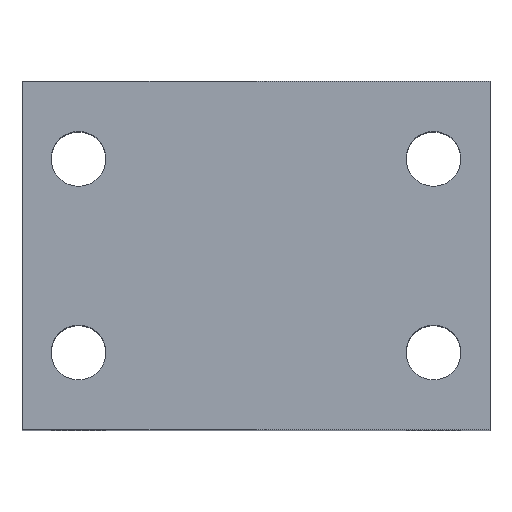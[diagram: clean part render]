
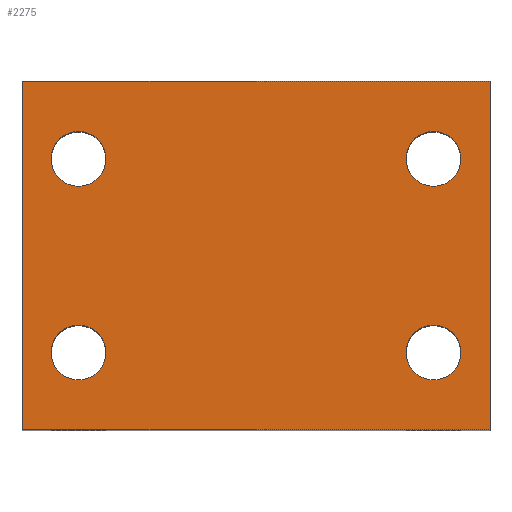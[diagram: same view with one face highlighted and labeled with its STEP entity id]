
A CAD part, top view. The second image highlights one B-rep face of the part: STEP entity #2275.
In plain terms, the highlighted planar face has unit normal (0, 0, 1).
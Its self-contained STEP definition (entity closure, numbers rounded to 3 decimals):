
#125 = DIRECTION ( 'NONE',  ( 0., 0., -1. ) ) ;
#334 = DIRECTION ( 'NONE',  ( 0., 0., -1. ) ) ;
#747 = VERTEX_POINT ( 'NONE', #1971 ) ;
#856 = CARTESIAN_POINT ( 'NONE',  ( 55., 84., 50. ) ) ;
#932 = EDGE_CURVE ( 'NONE', #12516, #10731, #10972, .T. ) ;
#978 = FACE_BOUND ( 'NONE', #5237, .T. ) ;
#1171 = ORIENTED_EDGE ( 'NONE', *, *, #15172, .T. ) ;
#1533 = LINE ( 'NONE', #4700, #1932 ) ;
#1811 = VERTEX_POINT ( 'NONE', #5464 ) ;
#1932 = VECTOR ( 'NONE', #9622, 1000. ) ;
#1971 = CARTESIAN_POINT ( 'NONE',  ( -46.5, 84., 50. ) ) ;
#2048 = EDGE_CURVE ( 'NONE', #10731, #12516, #9281, .T. ) ;
#2101 = CIRCLE ( 'NONE', #14563, 8.5 ) ;
#2110 = VERTEX_POINT ( 'NONE', #10486 ) ;
#2268 = AXIS2_PLACEMENT_3D ( 'NONE', #12563, #4609, #13880 ) ;
#2275 = ADVANCED_FACE ( 'NONE', ( #978, #8066, #14699, #11147, #15098 ), #16583, .F. ) ;
#2442 = DIRECTION ( 'NONE',  ( 0., 0., -1. ) ) ;
#2688 = VERTEX_POINT ( 'NONE', #8898 ) ;
#2801 = ORIENTED_EDGE ( 'NONE', *, *, #6924, .T. ) ;
#3008 = CARTESIAN_POINT ( 'NONE',  ( -55., 84., 50. ) ) ;
#3162 = EDGE_LOOP ( 'NONE', ( #7944, #12079 ) ) ;
#3174 = EDGE_CURVE ( 'NONE', #16484, #5057, #4512, .T. ) ;
#3197 = ORIENTED_EDGE ( 'NONE', *, *, #14361, .T. ) ;
#3611 = EDGE_LOOP ( 'NONE', ( #3711, #9739 ) ) ;
#3690 = AXIS2_PLACEMENT_3D ( 'NONE', #8336, #334, #9656 ) ;
#3711 = ORIENTED_EDGE ( 'NONE', *, *, #2048, .T. ) ;
#4063 = CARTESIAN_POINT ( 'NONE',  ( 72.5, 108., 50. ) ) ;
#4130 = AXIS2_PLACEMENT_3D ( 'NONE', #10214, #15735, #13304 ) ;
#4293 = EDGE_CURVE ( 'NONE', #9563, #5057, #5949, .T. ) ;
#4335 = DIRECTION ( 'NONE',  ( -1., 0., 0. ) ) ;
#4408 = VERTEX_POINT ( 'NONE', #12085 ) ;
#4512 = LINE ( 'NONE', #14695, #15509 ) ;
#4609 = DIRECTION ( 'NONE',  ( 0., 0., -1. ) ) ;
#4700 = CARTESIAN_POINT ( 'NONE',  ( -72.5, 108., 50. ) ) ;
#4838 = DIRECTION ( 'NONE',  ( 0., 0., -1. ) ) ;
#4912 = AXIS2_PLACEMENT_3D ( 'NONE', #8150, #125, #9453 ) ;
#5057 = VERTEX_POINT ( 'NONE', #5885 ) ;
#5237 = EDGE_LOOP ( 'NONE', ( #7991, #8925 ) ) ;
#5319 = CARTESIAN_POINT ( 'NONE',  ( -72.5, 108., 50. ) ) ;
#5345 = VECTOR ( 'NONE', #6656, 1000. ) ;
#5464 = CARTESIAN_POINT ( 'NONE',  ( 46.5, 24., 50. ) ) ;
#5553 = DIRECTION ( 'NONE',  ( -1., 0., 0. ) ) ;
#5673 = CARTESIAN_POINT ( 'NONE',  ( -72.5, 0., 50. ) ) ;
#5885 = CARTESIAN_POINT ( 'NONE',  ( 72.5, 0., 50. ) ) ;
#5898 = CARTESIAN_POINT ( 'NONE',  ( -55., 24., 50. ) ) ;
#5932 = DIRECTION ( 'NONE',  ( 0., 0., -1. ) ) ;
#5949 = LINE ( 'NONE', #7720, #16535 ) ;
#6077 = CARTESIAN_POINT ( 'NONE',  ( 55., 84., 50. ) ) ;
#6656 = DIRECTION ( 'NONE',  ( 0., -1., 0. ) ) ;
#6770 = DIRECTION ( 'NONE',  ( 1., 0., 0. ) ) ;
#6852 = CIRCLE ( 'NONE', #4912, 8.5 ) ;
#6905 = AXIS2_PLACEMENT_3D ( 'NONE', #856, #4838, #15441 ) ;
#6924 = EDGE_CURVE ( 'NONE', #16674, #16484, #12390, .T. ) ;
#7012 = CIRCLE ( 'NONE', #2268, 8.5 ) ;
#7238 = DIRECTION ( 'NONE',  ( -1., 0., 0. ) ) ;
#7321 = CARTESIAN_POINT ( 'NONE',  ( 63.5, 84., 50. ) ) ;
#7666 = ORIENTED_EDGE ( 'NONE', *, *, #4293, .F. ) ;
#7720 = CARTESIAN_POINT ( 'NONE',  ( 72.5, 108., 50. ) ) ;
#7944 = ORIENTED_EDGE ( 'NONE', *, *, #17335, .T. ) ;
#7991 = ORIENTED_EDGE ( 'NONE', *, *, #13276, .T. ) ;
#8066 = FACE_BOUND ( 'NONE', #9612, .T. ) ;
#8079 = EDGE_CURVE ( 'NONE', #2688, #1811, #7012, .T. ) ;
#8150 = CARTESIAN_POINT ( 'NONE',  ( -55., 84., 50. ) ) ;
#8336 = CARTESIAN_POINT ( 'NONE',  ( 55., 24., 50. ) ) ;
#8537 = AXIS2_PLACEMENT_3D ( 'NONE', #5898, #15170, #7238 ) ;
#8683 = CARTESIAN_POINT ( 'NONE',  ( 46.5, 84., 50. ) ) ;
#8898 = CARTESIAN_POINT ( 'NONE',  ( 63.5, 24., 50. ) ) ;
#8925 = ORIENTED_EDGE ( 'NONE', *, *, #16729, .T. ) ;
#9113 = CIRCLE ( 'NONE', #8537, 8.5 ) ;
#9281 = CIRCLE ( 'NONE', #12459, 8.5 ) ;
#9339 = CARTESIAN_POINT ( 'NONE',  ( -72.5, 108., 50. ) ) ;
#9453 = DIRECTION ( 'NONE',  ( -1., 0., 0. ) ) ;
#9563 = VERTEX_POINT ( 'NONE', #4063 ) ;
#9612 = EDGE_LOOP ( 'NONE', ( #3197, #1171 ) ) ;
#9622 = DIRECTION ( 'NONE',  ( 1., 0., 0. ) ) ;
#9656 = DIRECTION ( 'NONE',  ( -1., 0., 0. ) ) ;
#9739 = ORIENTED_EDGE ( 'NONE', *, *, #932, .T. ) ;
#10214 = CARTESIAN_POINT ( 'NONE',  ( -72.5, 108., 50. ) ) ;
#10351 = CARTESIAN_POINT ( 'NONE',  ( -55., 24., 50. ) ) ;
#10486 = CARTESIAN_POINT ( 'NONE',  ( -63.5, 84., 50. ) ) ;
#10731 = VERTEX_POINT ( 'NONE', #8683 ) ;
#10772 = AXIS2_PLACEMENT_3D ( 'NONE', #3008, #12287, #4335 ) ;
#10829 = CIRCLE ( 'NONE', #10772, 8.5 ) ;
#10972 = CIRCLE ( 'NONE', #6905, 8.5 ) ;
#11147 = FACE_BOUND ( 'NONE', #3611, .T. ) ;
#11712 = DIRECTION ( 'NONE',  ( -1., 0., 0. ) ) ;
#12021 = EDGE_LOOP ( 'NONE', ( #16387, #7666, #12308, #2801 ) ) ;
#12079 = ORIENTED_EDGE ( 'NONE', *, *, #8079, .T. ) ;
#12085 = CARTESIAN_POINT ( 'NONE',  ( -46.5, 24., 50. ) ) ;
#12287 = DIRECTION ( 'NONE',  ( 0., 0., -1. ) ) ;
#12308 = ORIENTED_EDGE ( 'NONE', *, *, #12330, .F. ) ;
#12330 = EDGE_CURVE ( 'NONE', #16674, #9563, #1533, .T. ) ;
#12390 = LINE ( 'NONE', #5319, #5345 ) ;
#12459 = AXIS2_PLACEMENT_3D ( 'NONE', #6077, #5932, #5553 ) ;
#12516 = VERTEX_POINT ( 'NONE', #7321 ) ;
#12563 = CARTESIAN_POINT ( 'NONE',  ( 55., 24., 50. ) ) ;
#13255 = CARTESIAN_POINT ( 'NONE',  ( -63.5, 24., 50. ) ) ;
#13276 = EDGE_CURVE ( 'NONE', #2110, #747, #10829, .T. ) ;
#13304 = DIRECTION ( 'NONE',  ( -1., 0., 0. ) ) ;
#13880 = DIRECTION ( 'NONE',  ( -1., 0., 0. ) ) ;
#14361 = EDGE_CURVE ( 'NONE', #14781, #4408, #2101, .T. ) ;
#14563 = AXIS2_PLACEMENT_3D ( 'NONE', #10351, #2442, #11712 ) ;
#14695 = CARTESIAN_POINT ( 'NONE',  ( -72.5, 0., 50. ) ) ;
#14699 = FACE_BOUND ( 'NONE', #3162, .T. ) ;
#14781 = VERTEX_POINT ( 'NONE', #13255 ) ;
#15098 = FACE_OUTER_BOUND ( 'NONE', #12021, .T. ) ;
#15170 = DIRECTION ( 'NONE',  ( 0., 0., -1. ) ) ;
#15172 = EDGE_CURVE ( 'NONE', #4408, #14781, #9113, .T. ) ;
#15441 = DIRECTION ( 'NONE',  ( -1., 0., 0. ) ) ;
#15509 = VECTOR ( 'NONE', #6770, 1000. ) ;
#15735 = DIRECTION ( 'NONE',  ( 0., 0., -1. ) ) ;
#16387 = ORIENTED_EDGE ( 'NONE', *, *, #3174, .T. ) ;
#16484 = VERTEX_POINT ( 'NONE', #5673 ) ;
#16535 = VECTOR ( 'NONE', #17035, 1000. ) ;
#16583 = PLANE ( 'NONE',  #4130 ) ;
#16674 = VERTEX_POINT ( 'NONE', #9339 ) ;
#16729 = EDGE_CURVE ( 'NONE', #747, #2110, #6852, .T. ) ;
#16806 = CIRCLE ( 'NONE', #3690, 8.5 ) ;
#17035 = DIRECTION ( 'NONE',  ( 0., -1., 0. ) ) ;
#17335 = EDGE_CURVE ( 'NONE', #1811, #2688, #16806, .T. ) ;
